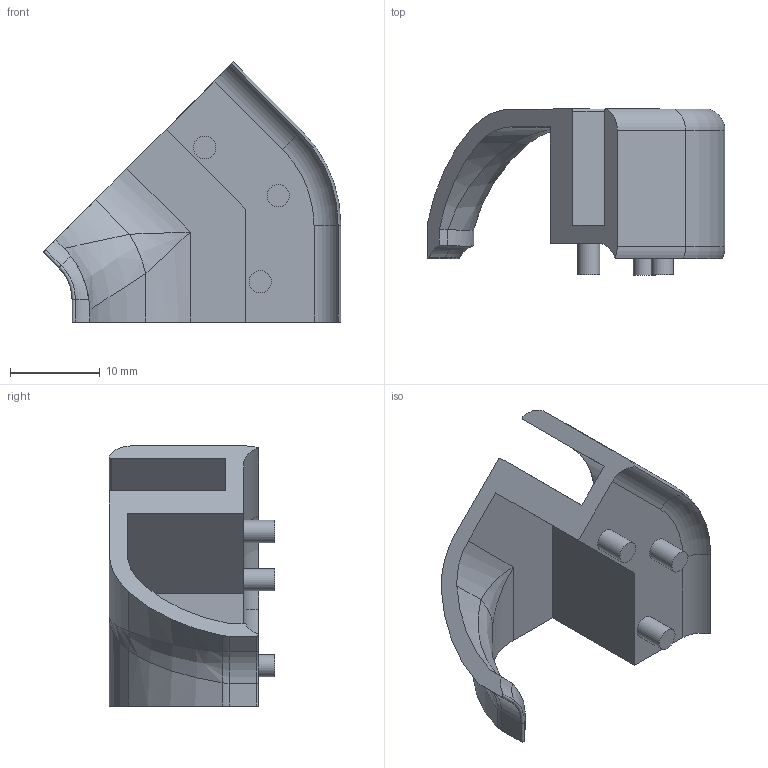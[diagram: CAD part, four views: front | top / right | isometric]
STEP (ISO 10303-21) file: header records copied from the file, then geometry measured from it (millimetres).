
FILE_DESCRIPTION (( 'STEP AP214' ), '1' );
FILE_NAME ('L15856.step', '2024-12-03T16:20:19', ( '' ), ( '' ), 'SwSTEP 2.0', 'SolidWorks 2023', '' );
FILE_SCHEMA (( 'AUTOMOTIVE_DESIGN' ));
Length unit declared in the file: millimetre
Products named in the file (1): L15856
Bounding box: 33.24 x 18.5 x 29.02 mm (x, y, z)
Volume: 3564.7 mm3; surface area: 3496.7 mm2
Topology: 1 solids, 1 shells, 65 faces, 156 edges, 94 vertices
Faces by surface type: cylinder 32, plane 21, torus 7, bspline 5
Full cylindrical faces by diameter (mm): 2.5 x3
Entity records: 1951 total; most frequent: CARTESIAN_POINT 456, DIRECTION 317, ORIENTED_EDGE 302, EDGE_CURVE 151, AXIS2_PLACEMENT_3D 121, VERTEX_POINT 94, VECTOR 75, LINE 75
